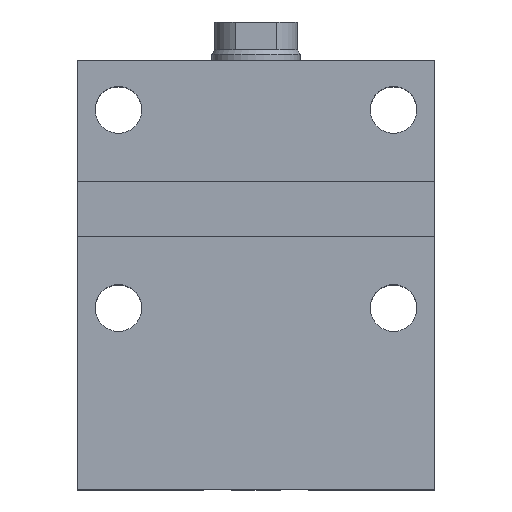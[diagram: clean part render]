
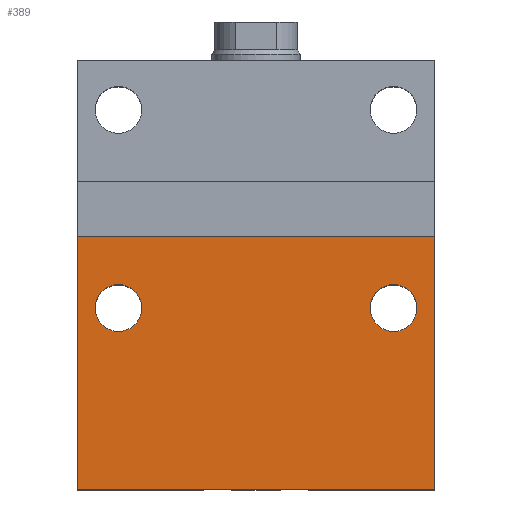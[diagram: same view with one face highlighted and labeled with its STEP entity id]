
A CAD part, top view. The second image highlights one B-rep face of the part: STEP entity #389.
In plain terms, the highlighted planar face has unit normal (0, 0, 1).
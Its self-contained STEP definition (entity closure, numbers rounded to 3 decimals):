
#7 = EDGE_CURVE ( 'NONE', #192, #2794, #264, .T. ) ;
#71 = LINE ( 'NONE', #257, #2042 ) ;
#129 = ORIENTED_EDGE ( 'NONE', *, *, #2356, .F. ) ;
#156 = AXIS2_PLACEMENT_3D ( 'NONE', #2869, #1439, #266 ) ;
#192 = VERTEX_POINT ( 'NONE', #3014 ) ;
#235 = DIRECTION ( 'NONE',  ( -1., 0., 0. ) ) ;
#236 = ORIENTED_EDGE ( 'NONE', *, *, #7, .T. ) ;
#257 = CARTESIAN_POINT ( 'NONE',  ( -32.5, 0., 22.5 ) ) ;
#264 = LINE ( 'NONE', #1053, #1943 ) ;
#266 = DIRECTION ( 'NONE',  ( 1., 0., 0. ) ) ;
#328 = FACE_BOUND ( 'NONE', #1834, .T. ) ;
#355 = VERTEX_POINT ( 'NONE', #2335 ) ;
#361 = AXIS2_PLACEMENT_3D ( 'NONE', #1038, #2261, #2023 ) ;
#365 = CARTESIAN_POINT ( 'NONE',  ( 20.75, 33., 22.5 ) ) ;
#389 = ADVANCED_FACE ( 'NONE', ( #328, #2388, #479 ), #2865, .F. ) ;
#458 = EDGE_CURVE ( 'NONE', #1952, #1447, #2776, .T. ) ;
#479 = FACE_OUTER_BOUND ( 'NONE', #791, .T. ) ;
#488 = ORIENTED_EDGE ( 'NONE', *, *, #1860, .F. ) ;
#498 = CIRCLE ( 'NONE', #156, 4.25 ) ;
#512 = CARTESIAN_POINT ( 'NONE',  ( -32.5, 0., 22.5 ) ) ;
#553 = CARTESIAN_POINT ( 'NONE',  ( 29.25, 33., 22.5 ) ) ;
#580 = VECTOR ( 'NONE', #2568, 1000. ) ;
#585 = AXIS2_PLACEMENT_3D ( 'NONE', #2835, #2853, #1921 ) ;
#660 = CARTESIAN_POINT ( 'NONE',  ( -29.25, 33., 22.5 ) ) ;
#663 = CARTESIAN_POINT ( 'NONE',  ( -32.5, 46., 22.5 ) ) ;
#774 = EDGE_CURVE ( 'NONE', #2290, #1206, #1369, .T. ) ;
#791 = EDGE_LOOP ( 'NONE', ( #488, #129, #236, #1234 ) ) ;
#836 = LINE ( 'NONE', #663, #580 ) ;
#845 = CARTESIAN_POINT ( 'NONE',  ( 32.5, 46., 22.5 ) ) ;
#980 = DIRECTION ( 'NONE',  ( 1., 0., 0. ) ) ;
#1038 = CARTESIAN_POINT ( 'NONE',  ( 25., 33., 22.5 ) ) ;
#1052 = ORIENTED_EDGE ( 'NONE', *, *, #458, .F. ) ;
#1053 = CARTESIAN_POINT ( 'NONE',  ( -32.5, 58., 22.5 ) ) ;
#1206 = VERTEX_POINT ( 'NONE', #553 ) ;
#1221 = DIRECTION ( 'NONE',  ( 0., 0., -1. ) ) ;
#1234 = ORIENTED_EDGE ( 'NONE', *, *, #2510, .T. ) ;
#1344 = DIRECTION ( 'NONE',  ( 0., 0., 1. ) ) ;
#1349 = CARTESIAN_POINT ( 'NONE',  ( -20.75, 33., 22.5 ) ) ;
#1369 = CIRCLE ( 'NONE', #361, 4.25 ) ;
#1439 = DIRECTION ( 'NONE',  ( 0., 0., 1. ) ) ;
#1447 = VERTEX_POINT ( 'NONE', #660 ) ;
#1536 = ORIENTED_EDGE ( 'NONE', *, *, #774, .F. ) ;
#1597 = ORIENTED_EDGE ( 'NONE', *, *, #2398, .F. ) ;
#1823 = ORIENTED_EDGE ( 'NONE', *, *, #2609, .F. ) ;
#1834 = EDGE_LOOP ( 'NONE', ( #1052, #1823 ) ) ;
#1853 = DIRECTION ( 'NONE',  ( 0., -1., 0. ) ) ;
#1860 = EDGE_CURVE ( 'NONE', #2362, #355, #1927, .T. ) ;
#1921 = DIRECTION ( 'NONE',  ( 1., 0., 0. ) ) ;
#1927 = LINE ( 'NONE', #3002, #2582 ) ;
#1943 = VECTOR ( 'NONE', #2693, 1000. ) ;
#1952 = VERTEX_POINT ( 'NONE', #1349 ) ;
#2023 = DIRECTION ( 'NONE',  ( 1., 0., 0. ) ) ;
#2042 = VECTOR ( 'NONE', #980, 1000. ) ;
#2231 = AXIS2_PLACEMENT_3D ( 'NONE', #2675, #1344, #2348 ) ;
#2261 = DIRECTION ( 'NONE',  ( 0., 0., 1. ) ) ;
#2262 = EDGE_LOOP ( 'NONE', ( #1597, #1536 ) ) ;
#2290 = VERTEX_POINT ( 'NONE', #365 ) ;
#2335 = CARTESIAN_POINT ( 'NONE',  ( 32.5, 0., 22.5 ) ) ;
#2348 = DIRECTION ( 'NONE',  ( 1., 0., 0. ) ) ;
#2356 = EDGE_CURVE ( 'NONE', #192, #2362, #836, .T. ) ;
#2362 = VERTEX_POINT ( 'NONE', #845 ) ;
#2388 = FACE_BOUND ( 'NONE', #2262, .T. ) ;
#2398 = EDGE_CURVE ( 'NONE', #1206, #2290, #2444, .T. ) ;
#2444 = CIRCLE ( 'NONE', #2231, 4.25 ) ;
#2510 = EDGE_CURVE ( 'NONE', #2794, #355, #71, .T. ) ;
#2556 = AXIS2_PLACEMENT_3D ( 'NONE', #2610, #1221, #235 ) ;
#2568 = DIRECTION ( 'NONE',  ( 1., 0., 0. ) ) ;
#2582 = VECTOR ( 'NONE', #1853, 1000. ) ;
#2609 = EDGE_CURVE ( 'NONE', #1447, #1952, #498, .T. ) ;
#2610 = CARTESIAN_POINT ( 'NONE',  ( -32.5, 58., 22.5 ) ) ;
#2675 = CARTESIAN_POINT ( 'NONE',  ( 25., 33., 22.5 ) ) ;
#2693 = DIRECTION ( 'NONE',  ( 0., -1., 0. ) ) ;
#2776 = CIRCLE ( 'NONE', #585, 4.25 ) ;
#2794 = VERTEX_POINT ( 'NONE', #512 ) ;
#2835 = CARTESIAN_POINT ( 'NONE',  ( -25., 33., 22.5 ) ) ;
#2853 = DIRECTION ( 'NONE',  ( 0., 0., 1. ) ) ;
#2865 = PLANE ( 'NONE',  #2556 ) ;
#2869 = CARTESIAN_POINT ( 'NONE',  ( -25., 33., 22.5 ) ) ;
#3002 = CARTESIAN_POINT ( 'NONE',  ( 32.5, 58., 22.5 ) ) ;
#3014 = CARTESIAN_POINT ( 'NONE',  ( -32.5, 46., 22.5 ) ) ;
